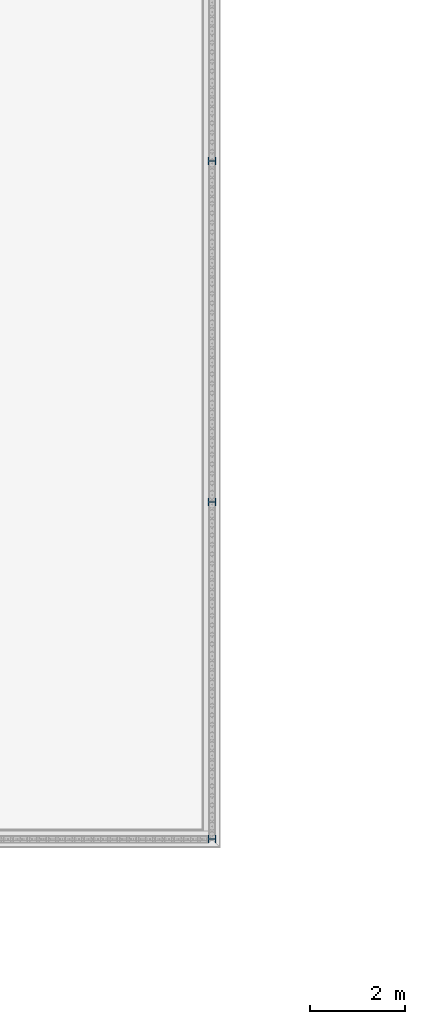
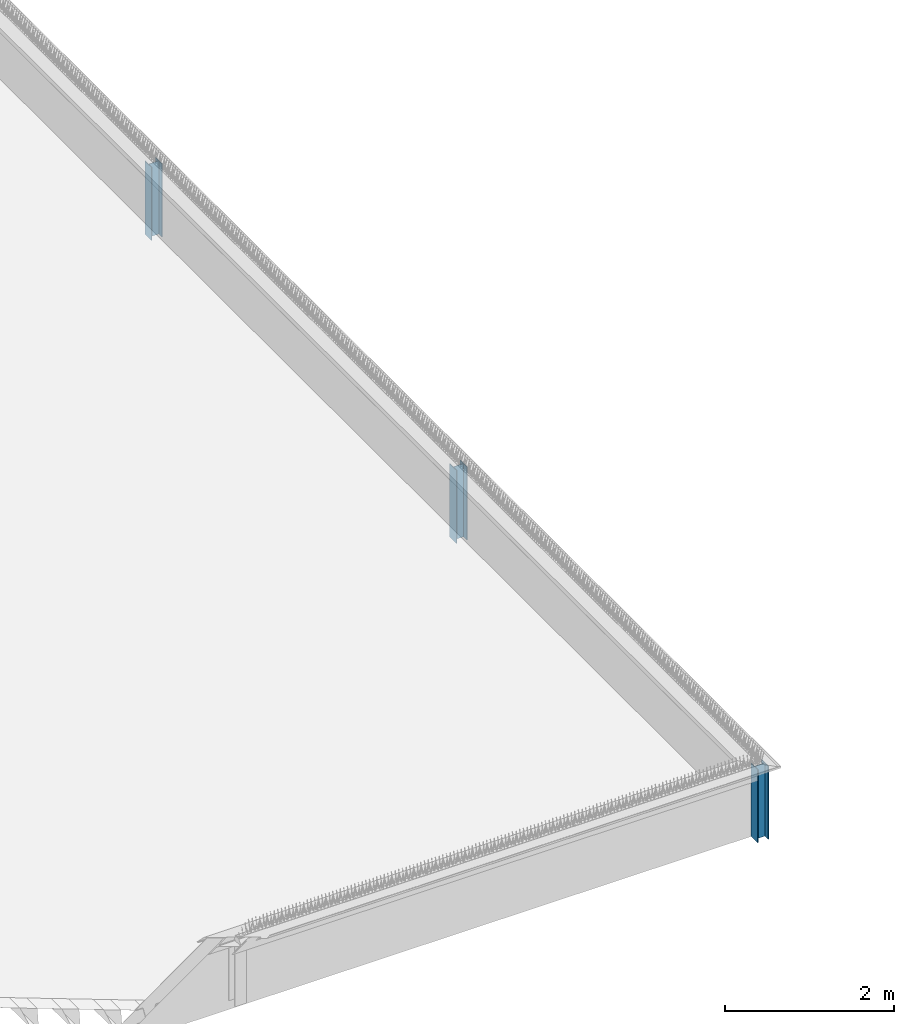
# One storey, part 5 of 81: 3 columns.
"""IFC2X3 building model written with IfcOpenShell, lengths in millimetres."""

from ifc_helpers import new_model, entity, si_unit, converted_unit, derived_unit, money_unit, direction, frame, origin_with_axes, place, context, subcontext, project, spatial, faceted_brep, material, type_object, element, save


model = new_model("IFC2X3")

# Units and contexts
model_context = context("Model", 3, precision=0.01, world=origin_with_axes(), true_north=direction((0.0, 1.0)))
body_context = subcontext(model_context, "Body", "Model", "MODEL_VIEW")
ifc_project = project(units=[si_unit("LENGTHUNIT", "METRE", prefix="MILLI"), si_unit("AREAUNIT", "SQUARE_METRE"), si_unit("VOLUMEUNIT", "CUBIC_METRE"), converted_unit("PLANEANGLEUNIT", "DEGREE", entity("IfcPlaneAngleMeasure", 0.0174532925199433), si_unit("PLANEANGLEUNIT", "RADIAN"), dimensions=[0, 0, 0, 0, 0, 0, 0]), money_unit("EUR"), converted_unit("TIMEUNIT", "Year", entity("IfcTimeMeasure", 31557600.0), si_unit("TIMEUNIT", "SECOND"), dimensions=[0, 0, 1, 0, 0, 0, 0]), si_unit("MASSUNIT", "GRAM", prefix="KILO"), si_unit("THERMODYNAMICTEMPERATUREUNIT", "DEGREE_CELSIUS"), si_unit("LUMINOUSINTENSITYUNIT", "LUMEN"), si_unit("ENERGYUNIT", "JOULE", prefix="MEGA"), derived_unit("THERMALCONDUCTANCEUNIT", [(si_unit("POWERUNIT", "WATT"), 1), (si_unit("LENGTHUNIT", "METRE"), -1), (si_unit("THERMODYNAMICTEMPERATUREUNIT", "KELVIN"), -1)]), derived_unit("SPECIFICHEATCAPACITYUNIT", [(si_unit("ENERGYUNIT", "JOULE"), 1), (si_unit("MASSUNIT", "GRAM", prefix="KILO"), -1), (si_unit("THERMODYNAMICTEMPERATUREUNIT", "KELVIN"), -1)]), derived_unit("MASSDENSITYUNIT", [(si_unit("MASSUNIT", "GRAM", prefix="KILO"), 1), (si_unit("VOLUMEUNIT", "CUBIC_METRE"), -1)])], contexts=[model_context])

# Site, building, storey
site_placement = place(None, origin_with_axes())
site = spatial("IfcSite", under=ifc_project, at=site_placement, Name="Site", CompositionType="ELEMENT")
building_placement = place(site_placement, origin_with_axes())
building = spatial("IfcBuilding", under=site, at=building_placement, Name="Naam gebouw", CompositionType="ELEMENT")
storey_placement = place(building_placement, frame((0.0, 0.0, 15320.0), z_axis=(0.0, 0.0, 1.0), x_axis=(1.0, 0.0, 0.0)))
storey = spatial("IfcBuildingStorey", under=building, at=storey_placement, Name="01 dak", CompositionType="ELEMENT", Elevation=15320.0)

# Columns
ifc_material = material(Name="Metaal - Staal C")
column_type = type_object("IfcColumnType", Name="HEA160 160 x 152", PredefinedType="COLUMN")
for number, where, z_axis, x_axis, name in (
    (1, (68423.99999999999, 37200.0, -400.0393597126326), (0.0, 0.0, 1.0), (0.0, -1.0, 0.0), "HEA160"),
    (2, (68423.99999999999, 44400.00000000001, -400.0393597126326), (0.0, 0.0, 1.0), (0.0, -1.0, 0.0), "HEA160"),
    (3, (68423.99999999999, 30080.0, -400.0393597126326), (0.0, 0.0, 1.0), (0.0, -1.0, 0.0), "HEA160"),
):
    element("IfcColumn", number, at=place(storey_placement, frame(where, z_axis=z_axis, x_axis=x_axis)), inside=storey, type_object=column_type, material=ifc_material, Name=name, ObjectType="COLUMN", context=body_context, shape_type="Brep", body=[
        faceted_brep([(-79.9999999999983, 75.9999999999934, 1055.0), (-79.9999999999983, 75.9999999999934, 0.0), (-79.9999999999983, 66.99999999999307, 0.0), (-79.9999999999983, 66.99999999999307, 1055.0), (79.9999999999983, 75.9999999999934, 1055.0), (79.9999999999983, 75.9999999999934, 0.0), (79.9999999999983, 66.99999999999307, 0.0), (3.000000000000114, 66.99999999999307, 0.0), (3.000000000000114, -66.99999999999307, 0.0), (79.9999999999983, -66.99999999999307, 0.0), (79.9999999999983, -75.9999999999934, 0.0), (-79.9999999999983, -75.9999999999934, 0.0), (-79.9999999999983, -66.99999999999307, 0.0), (-3.000000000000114, -66.99999999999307, 0.0), (-3.000000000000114, 66.99999999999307, 0.0), (-3.000000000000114, 66.99999999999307, 1055.0), (-3.000000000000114, -66.99999999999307, 1055.0), (-79.9999999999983, -66.99999999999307, 1055.0), (-79.9999999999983, -75.9999999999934, 1055.0), (79.9999999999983, -75.9999999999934, 1055.0), (79.9999999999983, -66.99999999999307, 1055.0), (3.000000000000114, -66.99999999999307, 1055.0), (3.000000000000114, 66.99999999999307, 1055.0), (79.9999999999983, 66.99999999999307, 1055.0)], [[[0, 1, 2, 3]], [[4, 5, 1, 0]], [[2, 1, 5, 6, 7, 8, 9, 10, 11, 12, 13, 14]], [[3, 2, 14, 15]], [[4, 0, 3, 15, 16, 17, 18, 19, 20, 21, 22, 23]], [[23, 6, 5, 4]], [[22, 7, 6, 23]], [[21, 8, 7, 22]], [[20, 9, 8, 21]], [[19, 10, 9, 20]], [[18, 11, 10, 19]], [[17, 12, 11, 18]], [[16, 13, 12, 17]], [[15, 14, 13, 16]]]),
    ])

save(model, "model.ifc")
